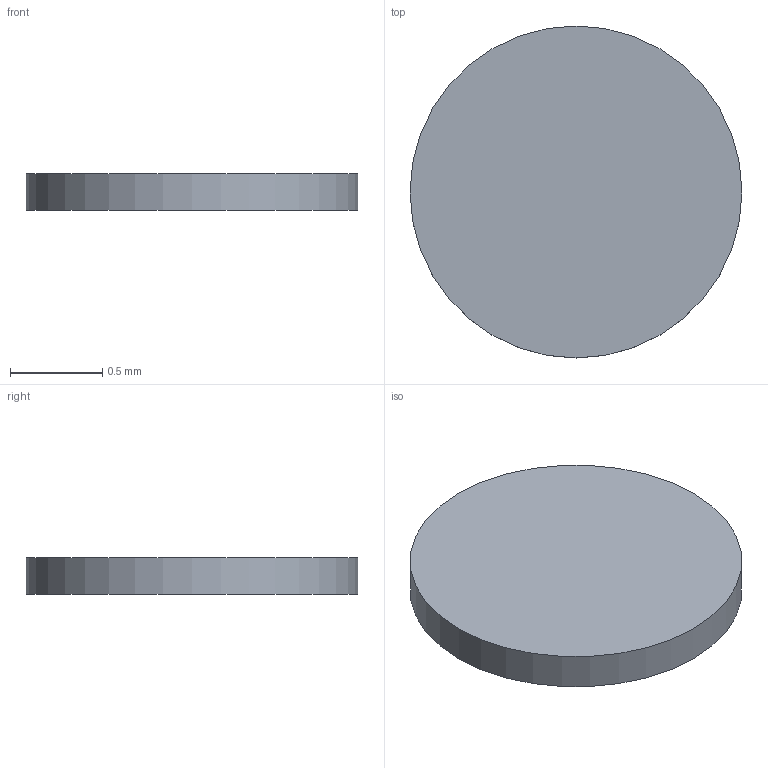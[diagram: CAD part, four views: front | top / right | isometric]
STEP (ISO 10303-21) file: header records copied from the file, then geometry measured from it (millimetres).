
FILE_DESCRIPTION(/* description */ ('STEP AP242 Edition 2','CAx-IF Rec.Pracs.---Representation and Presentation of Product Manufacturing Information (PMI)---4.0---2014-10-13','CAx-IF Rec.Pracs.---3D Tessellated Geometry---0.4---2014-09-14','2;1','CAx-IF Rec.Pracs.---User Defined Attributes---1.5---2016-08-15'),/* implementation_level */ '2;1');
FILE_NAME(/* name */ 'Drone Layout - Surface 2',/* time_stamp */ '2026-10-04T22:22:52Z',/* author */ (''),/* organization */ (''),/* preprocessor_version */ 'ST-DEVELOPER v20',/* originating_system */ 'ONSHAPE BY PTC INC, 1.221',/* authorisation */ ' ');
FILE_SCHEMA (('AP242_MANAGED_MODEL_BASED_3D_ENGINEERING_MIM_LF { 1 0 10303 442 3 1 4 }'));
Length unit declared in the file: metre
Products named in the file (1): switch:1__button
Bounding box: 1.8 x 1.8 x 0.2 mm (x, y, z)
Volume: 0.5 mm3; surface area: 6.2 mm2
Topology: 1 solids, 1 shells, 3 faces, 3 edges, 2 vertices
Faces by surface type: plane 2, cylinder 1
Full cylindrical faces by diameter (mm): 1.8 x1
Entity records: 67 total; most frequent: DIRECTION 12, CARTESIAN_POINT 8, AXIS2_PLACEMENT_3D 6, ORIENTED_EDGE 4, EDGE_LOOP 4, FACE_BOUND 4, ADVANCED_FACE 3, PLANE 2
